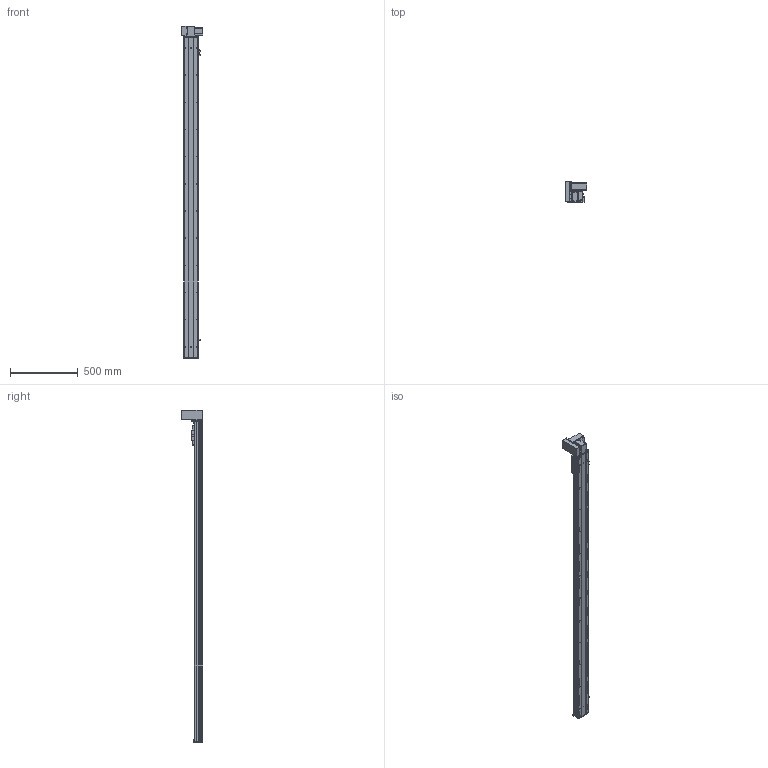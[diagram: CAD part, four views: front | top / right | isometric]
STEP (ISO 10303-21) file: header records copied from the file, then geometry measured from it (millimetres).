
FILE_DESCRIPTION (( 'STEP AP203' ), '1' );
FILE_NAME ('Y10CB-D90-S2100-UL-P400W.STEP', '2020-02-16T08:12:05', ( '微软用户' ), ( '微软中国' ), 'SwSTEP 2.0', 'SolidWorks 2017', '' );
FILE_SCHEMA (( 'CONFIG_CONTROL_DESIGN' ));
Length unit declared in the file: millimetre
Products named in the file (18): Y10B-耜蚾蟀諉啣----; 0B-埴倛裔啣; 00B-俋欶BM--; 10CB-詩湍-; Y10B--々湍喘謫眊--666; Y10CB- 掛极耜裔啣-毀---; 0CB-雄赽釱---; Y10CB-D90-S2100-UL-P400W; Y10C---詩湍揤啣; 0Cb-俋欶---; 10CB9-掛极; Y10B-々湍喘謫眊楊擘啣--; 10CB-耜裔; 0B-萇儂楊擘啣; Y135C-陔俋离換覜結え-; san松下电机400不带刹车----; Y100-135俋离換覜ん--; 0B-源倛裔啣
Assembly tree (21 placements, depth 2):
  Y10CB-D90-S2100-UL-P400W
    0CB-雄赽釱---
    0Cb-俋欶---
    Y10B-々湍喘謫眊楊擘啣--
    0B-萇儂楊擘啣
    san松下电机400不带刹车----
    0B-源倛裔啣
    0B-埴倛裔啣
    10CB-詩湍-
    Y10CB- 掛极耜裔啣-毀---  x2
    Y10C---詩湍揤啣  x2
    10CB9-掛极
    10CB-耜裔
    Y135C-陔俋离換覜結え-
    Y100-135俋离換覜ん--  x3
    Y10B-耜蚾蟀諉啣----
    00B-俋欶BM--
    Y10B--々湍喘謫眊--666
Bounding box: 157 x 155.5 x 2446 mm (x, y, z)
Volume: 5055540.5 mm3; surface area: 2379859.7 mm2
Topology: 21 solids, 21 shells, 1050 faces, 2843 edges, 1850 vertices
Faces by surface type: cylinder 539, plane 487, cone 24
Entity records: 33412 total; most frequent: CARTESIAN_POINT 6209, DIRECTION 5338, ORIENTED_EDGE 5156, EDGE_CURVE 2578, AXIS2_PLACEMENT_3D 1909, VERTEX_POINT 1676, VECTOR 1520, LINE 1520
